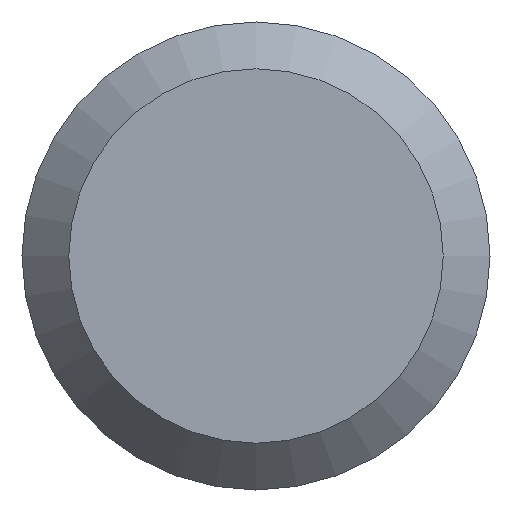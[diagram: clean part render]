
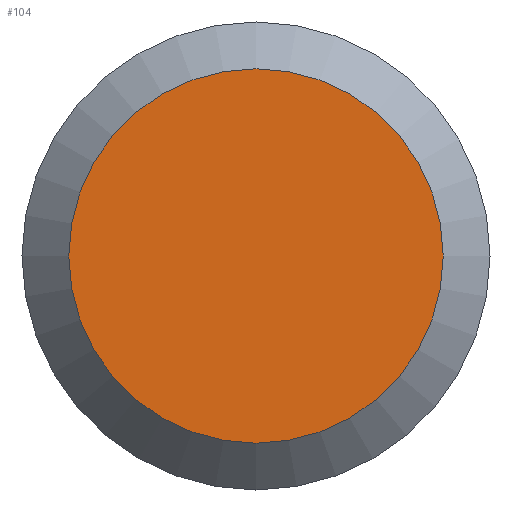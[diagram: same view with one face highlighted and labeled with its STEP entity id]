
A CAD part, left-side view. The second image highlights one B-rep face of the part: STEP entity #104.
In plain terms, the highlighted planar face has unit normal (-1, 0, 0).
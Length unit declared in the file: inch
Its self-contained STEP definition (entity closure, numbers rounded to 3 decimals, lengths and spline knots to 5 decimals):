
#17 = CARTESIAN_POINT ( 'NONE',  ( 0., 0., -0.0728 ) ) ;
#26 = CARTESIAN_POINT ( 'NONE',  ( 0., 0.091, 0. ) ) ;
#28 = DIRECTION ( 'NONE',  ( 1., 0., 0. ) ) ;
#51 = DIRECTION ( 'NONE',  ( -1., 0., 0. ) ) ;
#63 = EDGE_LOOP ( 'NONE', ( #66 ) ) ;
#66 = ORIENTED_EDGE ( 'NONE', *, *, #238, .T. ) ;
#104 = ADVANCED_FACE ( 'NONE', ( #183 ), #194, .F. ) ;
#140 = CIRCLE ( 'NONE', #230, 0.0728 ) ;
#147 = DIRECTION ( 'NONE',  ( 0., 0., -1. ) ) ;
#153 = VERTEX_POINT ( 'NONE', #17 ) ;
#169 = CARTESIAN_POINT ( 'NONE',  ( 0., 0., 0. ) ) ;
#170 = DIRECTION ( 'NONE',  ( 0., 0., -1. ) ) ;
#183 = FACE_OUTER_BOUND ( 'NONE', #63, .T. ) ;
#194 = PLANE ( 'NONE',  #228 ) ;
#228 = AXIS2_PLACEMENT_3D ( 'NONE', #26, #28, #170 ) ;
#230 = AXIS2_PLACEMENT_3D ( 'NONE', #169, #51, #147 ) ;
#238 = EDGE_CURVE ( 'NONE', #153, #153, #140, .T. ) ;
